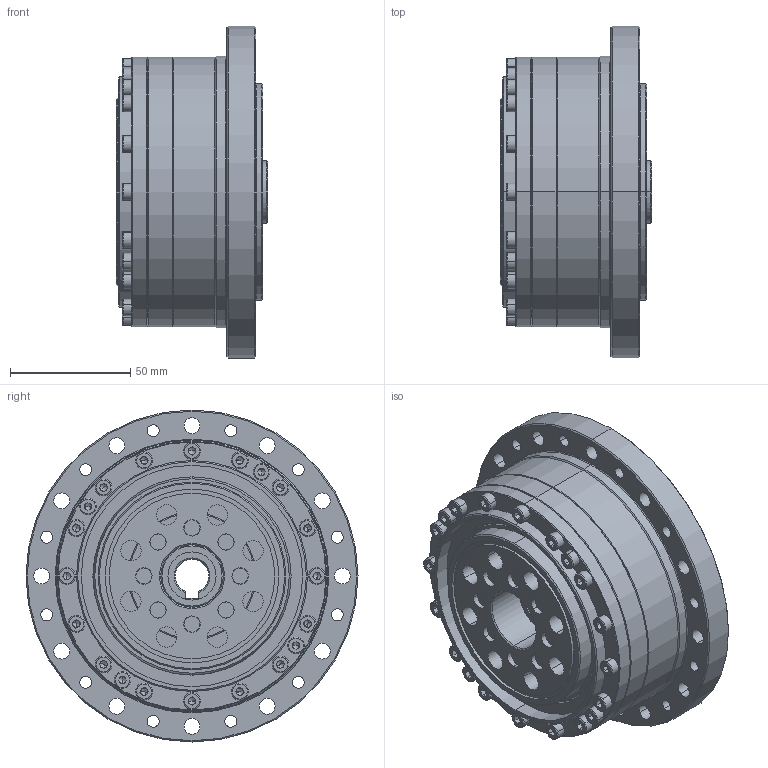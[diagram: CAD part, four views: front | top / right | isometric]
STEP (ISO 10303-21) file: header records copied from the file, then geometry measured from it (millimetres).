
FILE_DESCRIPTION (( 'STEP AP203' ), '1' );
FILE_NAME ('LCSG-32-XXX-C-II.STEP', '2016-08-18T05:45:16', ( 'Windows 蚚誧' ), ( 'Users' ), 'SwSTEP 2.0', 'SolidWorks 2013', '' );
FILE_SCHEMA (( 'CONFIG_CONTROL_DESIGN' ));
Length unit declared in the file: millimetre
Products named in the file (17): LCSG-32-XXX-P05-II; RZC-32G内外圈+钢球; socket head cap screw_din_DIN 912 M8 x 25 --- 25N; RZC-32悵厥殤; socket head cap screw_din_内六角圆柱头螺钉M4 x 25; 柔性轴承RZC-32G; socket head cap screw_din_内六角圆柱头螺钉M4 x 16; 疏楷汜ん32G-II; LJ-32G-II; LCSG-32-XXX-C-II; SZ-32G-II; LCSG-32-XXX-P04-II; LCSG-32-XXX-P03-II; LCSG-32-XXX-P02-II; DB-32G-II; LCSG-32-XXX-P01-II; 粣噤25
Assembly tree (41 placements, depth 4):
  LCSG-32-XXX-C-II
    LCSG-32-XXX-P04-II
    LCSG-32-XXX-P02-II
    LCSG-32-XXX-P01-II
    LCSG-32-XXX-P05-II
    socket head cap screw_din_DIN 912 M8 x 25 --- 25N  x8
    socket head cap screw_din_内六角圆柱头螺钉M4 x 25  x16
    socket head cap screw_din_内六角圆柱头螺钉M4 x 16  x4
    疏楷汜ん32G-II
      LJ-32G-II
      SZ-32G-II
      LCSG-32-XXX-P03-II
      DB-32G-II
      粣噤25
      柔性轴承RZC-32G
        RZC-32G内外圈+钢球
        RZC-32悵厥殤
Bounding box: 63 x 138 x 138 mm (x, y, z)
Volume: 431372.7 mm3; surface area: 212730.2 mm2
Topology: 64 solids, 65 shells, 1507 faces, 3561 edges, 2153 vertices
Faces by surface type: plane 566, cylinder 500, cone 245, torus 150, sphere 46
Entity records: 27319 total; most frequent: DIRECTION 4852, CARTESIAN_POINT 4215, ORIENTED_EDGE 3916, AXIS2_PLACEMENT_3D 2056, EDGE_CURVE 1958, VERTEX_POINT 1259, CIRCLE 1178, EDGE_LOOP 1067
